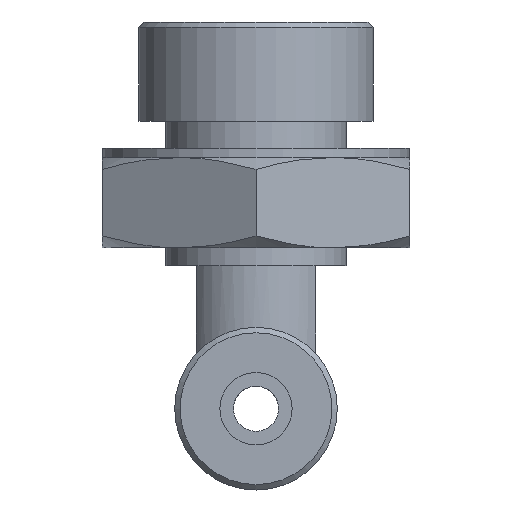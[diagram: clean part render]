
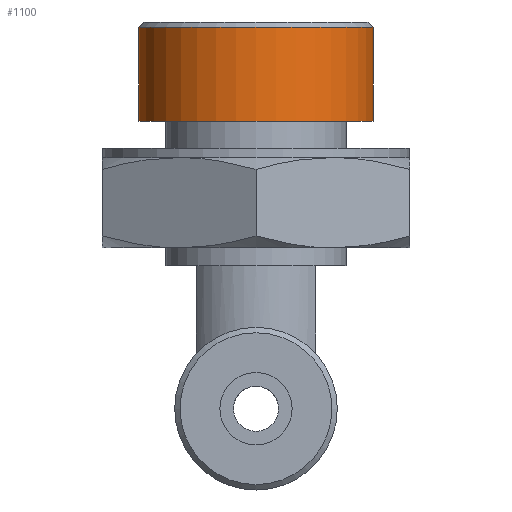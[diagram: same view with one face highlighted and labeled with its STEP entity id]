
A CAD part, front view. The second image highlights one B-rep face of the part: STEP entity #1100.
In plain terms, the highlighted cylindrical face has radius 6.5 mm (diameter 13 mm), a full revolution.
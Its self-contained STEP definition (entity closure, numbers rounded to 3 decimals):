
#140=FACE_OUTER_BOUND('',#219,.T.);
#219=EDGE_LOOP('',(#789,#790,#791,#792,#793));
#305=LINE('',#1871,#351);
#351=VECTOR('',#1489,6.5);
#412=CIRCLE('',#1270,6.5);
#413=CIRCLE('',#1271,6.5);
#414=CIRCLE('',#1273,6.5);
#498=VERTEX_POINT('',#1864);
#499=VERTEX_POINT('',#1866);
#500=VERTEX_POINT('',#1870);
#606=EDGE_CURVE('',#498,#499,#412,.T.);
#607=EDGE_CURVE('',#499,#498,#413,.T.);
#608=EDGE_CURVE('',#499,#500,#305,.T.);
#609=EDGE_CURVE('',#500,#500,#414,.T.);
#789=ORIENTED_EDGE('',*,*,#606,.F.);
#790=ORIENTED_EDGE('',*,*,#607,.F.);
#791=ORIENTED_EDGE('',*,*,#608,.T.);
#792=ORIENTED_EDGE('',*,*,#609,.T.);
#793=ORIENTED_EDGE('',*,*,#608,.F.);
#1070=CYLINDRICAL_SURFACE('',#1272,6.5);
#1100=ADVANCED_FACE('',(#140),#1070,.T.);
#1270=AXIS2_PLACEMENT_3D('',#1867,#1483,#1484);
#1271=AXIS2_PLACEMENT_3D('',#1868,#1485,#1486);
#1272=AXIS2_PLACEMENT_3D('',#1869,#1487,#1488);
#1273=AXIS2_PLACEMENT_3D('',#1872,#1490,#1491);
#1483=DIRECTION('center_axis',(0.,0.,1.));
#1484=DIRECTION('ref_axis',(-1.,0.,0.));
#1485=DIRECTION('center_axis',(0.,0.,1.));
#1486=DIRECTION('ref_axis',(-1.,0.,0.));
#1487=DIRECTION('center_axis',(0.,0.,1.));
#1488=DIRECTION('ref_axis',(1.,0.,0.));
#1489=DIRECTION('',(0.,0.,-1.));
#1490=DIRECTION('center_axis',(0.,0.,1.));
#1491=DIRECTION('ref_axis',(1.,0.,0.));
#1864=CARTESIAN_POINT('',(6.5,0.,21.1));
#1866=CARTESIAN_POINT('',(-6.5,0.,21.1));
#1867=CARTESIAN_POINT('Origin',(0.,0.,21.1));
#1868=CARTESIAN_POINT('Origin',(0.,0.,21.1));
#1869=CARTESIAN_POINT('Origin',(0.,0.,18.65));
#1870=CARTESIAN_POINT('',(-6.5,0.,15.9));
#1871=CARTESIAN_POINT('',(-6.5,0.,18.65));
#1872=CARTESIAN_POINT('Origin',(0.,0.,15.9));
